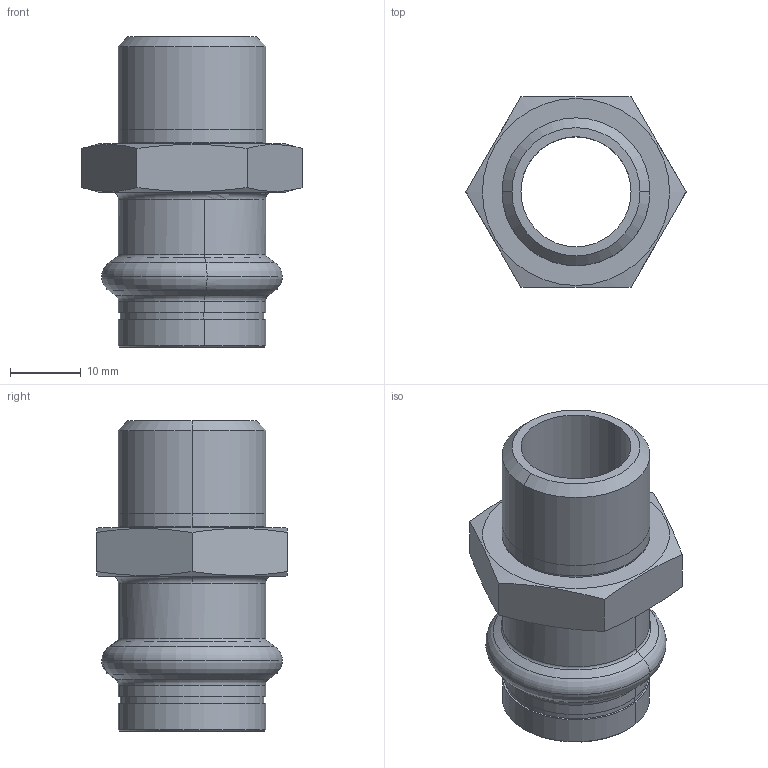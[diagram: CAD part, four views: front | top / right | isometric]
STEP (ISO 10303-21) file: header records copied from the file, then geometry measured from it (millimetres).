
FILE_DESCRIPTION(('CoCreate Modeling STEP Export'),'2;1');
FILE_NAME('8243GVW1812.stp','2013-03-05T10:31:33',(''),(''),'CoCreate Modeling STEP processor for AP214 (Solid Model)','CoCreate Modeling 17.00A 17-Jun-2010 (C) Parametric Technology GmbH','');
FILE_SCHEMA(('AUTOMOTIVE_DESIGN { 1 0 10303 214 1 1 1 1 }'));
Length unit declared in the file: millimetre
Products named in the file (1): 8243GVW1812
Bounding box: 31.18 x 27 x 44 mm (x, y, z)
Volume: 7718 mm3; surface area: 6494.7 mm2
Topology: 1 solids, 1 shells, 62 faces, 140 edges, 86 vertices
Faces by surface type: cylinder 22, cone 16, plane 14, torus 10
Entity records: 2062 total; most frequent: CARTESIAN_POINT 841, ORIENTED_EDGE 280, DIRECTION 198, EDGE_CURVE 140, VERTEX_POINT 86, AXIS2_PLACEMENT_3D 77, EDGE_LOOP 70, FACE_OUTER_BOUND 62
